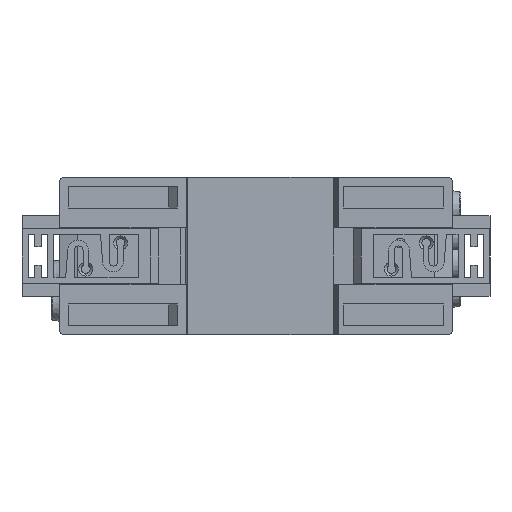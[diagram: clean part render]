
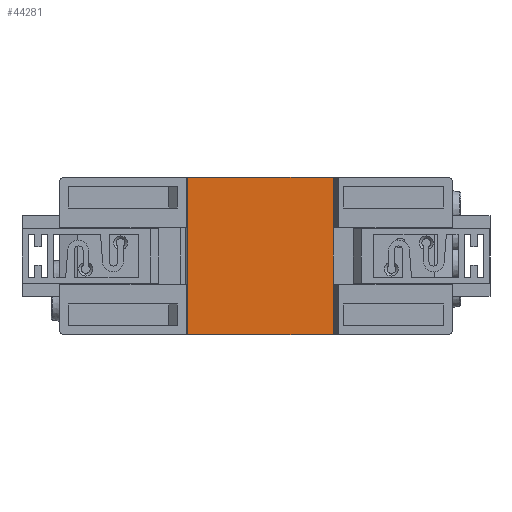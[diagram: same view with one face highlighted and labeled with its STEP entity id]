
A CAD part, left-side view. The second image highlights one B-rep face of the part: STEP entity #44281.
In plain terms, the highlighted planar face has unit normal (-1, 0, 0).
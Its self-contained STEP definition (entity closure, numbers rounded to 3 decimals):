
#1690 = CARTESIAN_POINT ( 'NONE',  ( 4.5, 15.7, -18. ) ) ;
#6536 = EDGE_CURVE ( 'NONE', #54533, #16902, #104890, .T. ) ;
#11101 = VECTOR ( 'NONE', #80063, 1000. ) ;
#12622 = DIRECTION ( 'NONE',  ( 0., 1., 0. ) ) ;
#16902 = VERTEX_POINT ( 'NONE', #51160 ) ;
#19415 = LINE ( 'NONE', #28738, #116129 ) ;
#25809 = CARTESIAN_POINT ( 'NONE',  ( 4.5, 15.7, 18. ) ) ;
#28063 = EDGE_CURVE ( 'NONE', #39343, #54533, #110607, .T. ) ;
#28738 = CARTESIAN_POINT ( 'NONE',  ( 4.5, 15.7, -18. ) ) ;
#39343 = VERTEX_POINT ( 'NONE', #66882 ) ;
#40486 = CARTESIAN_POINT ( 'NONE',  ( 4.5, -17.7, 18. ) ) ;
#41316 = LINE ( 'NONE', #1690, #65334 ) ;
#44281 = ADVANCED_FACE ( 'NONE', ( #45111 ), #112459, .F. ) ;
#45111 = FACE_OUTER_BOUND ( 'NONE', #51063, .T. ) ;
#46725 = DIRECTION ( 'NONE',  ( 0., 0., 1. ) ) ;
#47268 = CARTESIAN_POINT ( 'NONE',  ( 4.5, 15.7, -18. ) ) ;
#49335 = ORIENTED_EDGE ( 'NONE', *, *, #79717, .F. ) ;
#51063 = EDGE_LOOP ( 'NONE', ( #104105, #74450, #49335, #114127 ) ) ;
#51160 = CARTESIAN_POINT ( 'NONE',  ( 4.5, 15.7, 18. ) ) ;
#54533 = VERTEX_POINT ( 'NONE', #40486 ) ;
#54953 = AXIS2_PLACEMENT_3D ( 'NONE', #57873, #67014, #12622 ) ;
#57873 = CARTESIAN_POINT ( 'NONE',  ( 4.5, 15.7, -18. ) ) ;
#61370 = CARTESIAN_POINT ( 'NONE',  ( 4.5, -17.7, -18. ) ) ;
#65334 = VECTOR ( 'NONE', #46725, 1000. ) ;
#66882 = CARTESIAN_POINT ( 'NONE',  ( 4.5, -17.7, -18. ) ) ;
#67014 = DIRECTION ( 'NONE',  ( 1., 0., 0. ) ) ;
#70511 = DIRECTION ( 'NONE',  ( 0., 0., 1. ) ) ;
#73536 = EDGE_CURVE ( 'NONE', #82716, #16902, #41316, .T. ) ;
#74450 = ORIENTED_EDGE ( 'NONE', *, *, #73536, .F. ) ;
#79717 = EDGE_CURVE ( 'NONE', #39343, #82716, #19415, .T. ) ;
#80063 = DIRECTION ( 'NONE',  ( 0., 1., 0. ) ) ;
#82716 = VERTEX_POINT ( 'NONE', #47268 ) ;
#83447 = DIRECTION ( 'NONE',  ( 0., 1., 0. ) ) ;
#104105 = ORIENTED_EDGE ( 'NONE', *, *, #6536, .T. ) ;
#104890 = LINE ( 'NONE', #25809, #11101 ) ;
#107619 = VECTOR ( 'NONE', #70511, 1000. ) ;
#110607 = LINE ( 'NONE', #61370, #107619 ) ;
#112459 = PLANE ( 'NONE',  #54953 ) ;
#114127 = ORIENTED_EDGE ( 'NONE', *, *, #28063, .T. ) ;
#116129 = VECTOR ( 'NONE', #83447, 1000. ) ;
